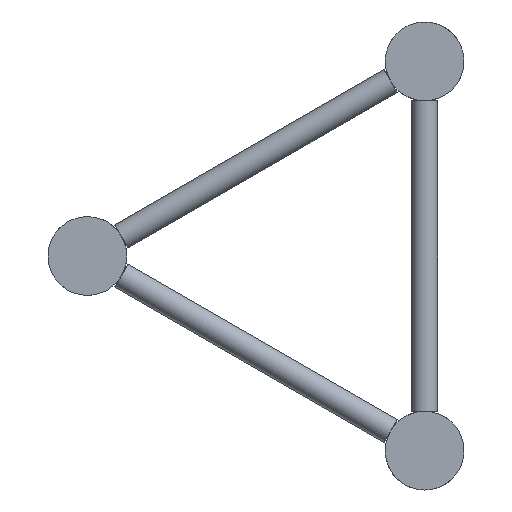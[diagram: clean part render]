
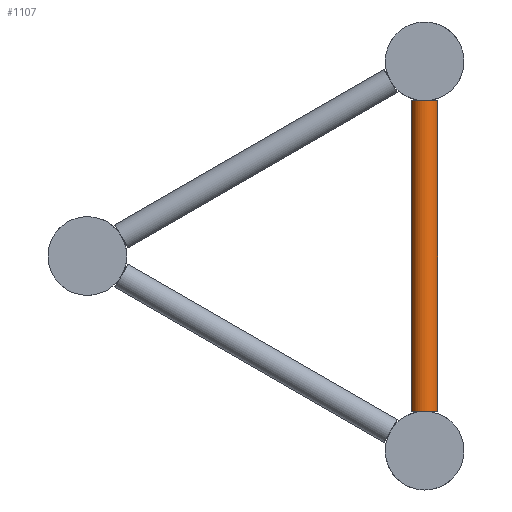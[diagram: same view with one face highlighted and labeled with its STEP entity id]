
A CAD part, left-side view. The second image highlights one B-rep face of the part: STEP entity #1107.
In plain terms, the highlighted cylindrical face has radius 8 mm (diameter 16 mm), a full revolution.
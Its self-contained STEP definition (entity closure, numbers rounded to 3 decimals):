
#80=CIRCLE('',#1230,8.);
#88=CIRCLE('',#1246,8.);
#89=CIRCLE('',#1248,8.);
#90=CIRCLE('',#1250,8.);
#156=FACE_BOUND('',#391,.T.);
#204=CYLINDRICAL_SURFACE('',#1249,8.);
#269=FACE_OUTER_BOUND('',#390,.T.);
#390=EDGE_LOOP('',(#781,#782));
#391=EDGE_LOOP('',(#783,#784));
#525=VERTEX_POINT('',#1757);
#526=VERTEX_POINT('',#1758);
#535=VERTEX_POINT('',#1781);
#536=VERTEX_POINT('',#1782);
#614=EDGE_CURVE('',#526,#525,#80,.T.);
#626=EDGE_CURVE('',#536,#535,#88,.T.);
#627=EDGE_CURVE('',#525,#526,#89,.T.);
#628=EDGE_CURVE('',#535,#536,#90,.T.);
#781=ORIENTED_EDGE('',*,*,#614,.T.);
#782=ORIENTED_EDGE('',*,*,#627,.T.);
#783=ORIENTED_EDGE('',*,*,#626,.T.);
#784=ORIENTED_EDGE('',*,*,#628,.T.);
#1107=ADVANCED_FACE('',(#269,#156),#204,.T.);
#1230=AXIS2_PLACEMENT_3D('',#1763,#1466,#1467);
#1246=AXIS2_PLACEMENT_3D('',#1795,#1502,#1503);
#1248=AXIS2_PLACEMENT_3D('',#1797,#1506,#1507);
#1249=AXIS2_PLACEMENT_3D('',#1798,#1508,#1509);
#1250=AXIS2_PLACEMENT_3D('',#1799,#1510,#1511);
#1466=DIRECTION('center_axis',(0.,0.,
1.));
#1467=DIRECTION('ref_axis',(-1.,0.,0.));
#1502=DIRECTION('center_axis',(0.,0.,
-1.));
#1503=DIRECTION('ref_axis',(-1.,0.,0.));
#1506=DIRECTION('center_axis',(0.,0.,
1.));
#1507=DIRECTION('ref_axis',(-1.,0.,0.));
#1508=DIRECTION('center_axis',(0.,0.,
1.));
#1509=DIRECTION('ref_axis',(-1.,0.,0.));
#1510=DIRECTION('center_axis',(0.,0.,
-1.));
#1511=DIRECTION('ref_axis',(-1.,0.,0.));
#1757=CARTESIAN_POINT('',(52.,0.,-214.85));
#1758=CARTESIAN_POINT('',(68.,0.,-214.85));
#1763=CARTESIAN_POINT('Origin',(60.,0.,-214.85));
#1781=CARTESIAN_POINT('',(52.,0.,-24.15));
#1782=CARTESIAN_POINT('',(68.,0.,-24.15));
#1795=CARTESIAN_POINT('Origin',(60.,0.,-24.15));
#1797=CARTESIAN_POINT('Origin',(60.,0.,-214.85));
#1798=CARTESIAN_POINT('Origin',(60.,0.,-119.5));
#1799=CARTESIAN_POINT('Origin',(60.,0.,-24.15));
